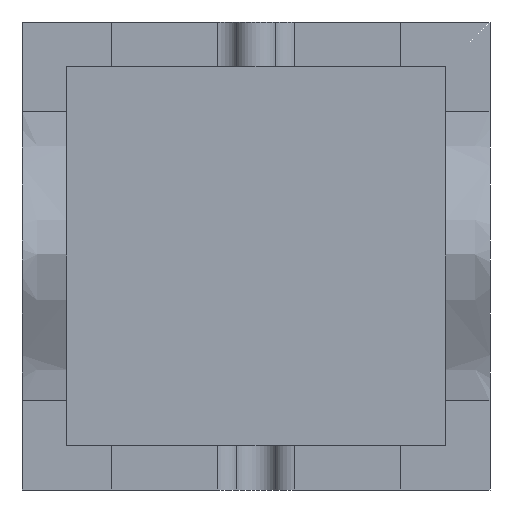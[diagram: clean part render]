
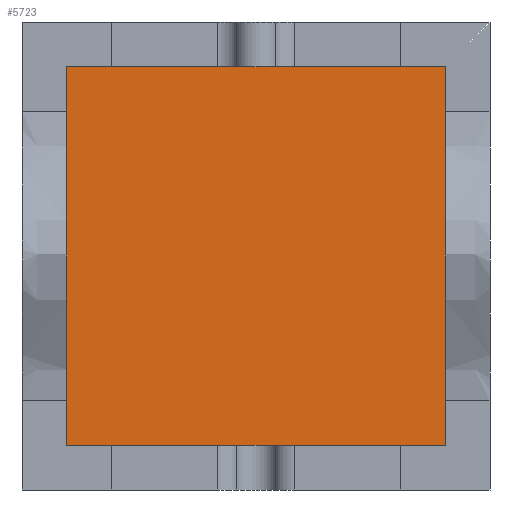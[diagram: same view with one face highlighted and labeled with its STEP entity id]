
A CAD part, front view. The second image highlights one B-rep face of the part: STEP entity #5723.
In plain terms, the highlighted planar face has unit normal (0, -1, 0).
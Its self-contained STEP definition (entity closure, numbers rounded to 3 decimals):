
#5597=CARTESIAN_POINT('Vertex',(-20.,-30.,-20.)) ;
#5602=CARTESIAN_POINT('Line Origine',(-20.,-30.,65.)) ;
#5606=CARTESIAN_POINT('Vertex',(-20.,-30.,150.)) ;
#5633=CARTESIAN_POINT('Line Origine',(65.,-30.,150.)) ;
#5637=CARTESIAN_POINT('Vertex',(150.,-30.,150.)) ;
#5664=CARTESIAN_POINT('Line Origine',(150.,-30.,65.)) ;
#5668=CARTESIAN_POINT('Vertex',(150.,-30.,-20.)) ;
#5695=CARTESIAN_POINT('Line Origine',(65.,-30.,-20.)) ;
#5712=CARTESIAN_POINT('Axis2P3D Location',(0.,-30.,0.)) ;
#5603=DIRECTION('Vector Direction',(0.,0.,-1.)) ;
#5634=DIRECTION('Vector Direction',(1.,0.,0.)) ;
#5665=DIRECTION('Vector Direction',(0.,0.,1.)) ;
#5696=DIRECTION('Vector Direction',(-1.,0.,0.)) ;
#5713=DIRECTION('Axis2P3D Direction',(0.,1.,0.)) ;
#5714=DIRECTION('Axis2P3D XDirection',(-1.,0.,0.)) ;
#5715=AXIS2_PLACEMENT_3D('Plane Axis2P3D',#5712,#5713,#5714) ;
#5718=ORIENTED_EDGE('',*,*,#5699,.F.) ;
#5719=ORIENTED_EDGE('',*,*,#5670,.F.) ;
#5720=ORIENTED_EDGE('',*,*,#5639,.F.) ;
#5721=ORIENTED_EDGE('',*,*,#5608,.F.) ;
#5604=VECTOR('Line Direction',#5603,1.) ;
#5635=VECTOR('Line Direction',#5634,1.) ;
#5666=VECTOR('Line Direction',#5665,1.) ;
#5697=VECTOR('Line Direction',#5696,1.) ;
#5723=ADVANCED_FACE('Cavity-molde',(#5722),#5716,.F.) ;
#5608=EDGE_CURVE('',#5598,#5607,#5605,.F.) ;
#5639=EDGE_CURVE('',#5607,#5638,#5636,.T.) ;
#5670=EDGE_CURVE('',#5638,#5669,#5667,.F.) ;
#5699=EDGE_CURVE('',#5669,#5598,#5698,.T.) ;
#5717=EDGE_LOOP('',(#5718,#5719,#5720,#5721)) ;
#5722=FACE_OUTER_BOUND('',#5717,.T.) ;
#5605=LINE('Line',#5602,#5604) ;
#5636=LINE('Line',#5633,#5635) ;
#5667=LINE('Line',#5664,#5666) ;
#5698=LINE('Line',#5695,#5697) ;
#5716=PLANE('',#5715) ;
#5598=VERTEX_POINT('',#5597) ;
#5607=VERTEX_POINT('',#5606) ;
#5638=VERTEX_POINT('',#5637) ;
#5669=VERTEX_POINT('',#5668) ;
